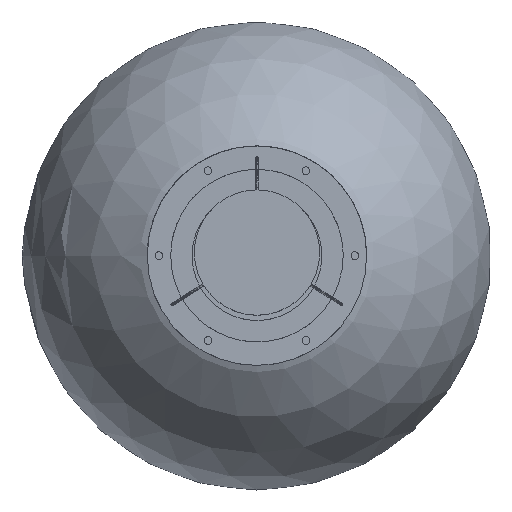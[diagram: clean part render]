
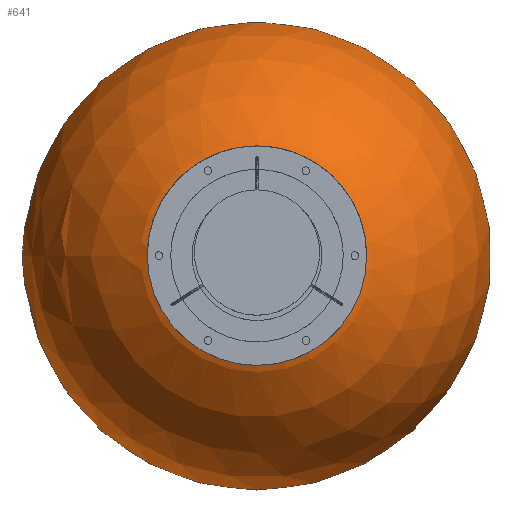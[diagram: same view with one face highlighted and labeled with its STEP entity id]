
A CAD part, top view. The second image highlights one B-rep face of the part: STEP entity #641.
In plain terms, the highlighted spherical face has radius 150 mm.
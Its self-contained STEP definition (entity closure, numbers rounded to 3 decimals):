
#170=FACE_OUTER_BOUND('',#223,.T.);
#223=EDGE_LOOP('',(#473,#474,#475,#476));
#289=CIRCLE('',#738,41.414);
#290=CIRCLE('',#739,150.);
#291=CIRCLE('',#740,41.414);
#333=VERTEX_POINT('',#1056);
#334=VERTEX_POINT('',#1057);
#335=VERTEX_POINT('',#1059);
#390=EDGE_CURVE('',#333,#334,#289,.T.);
#391=EDGE_CURVE('',#335,#333,#290,.T.);
#392=EDGE_CURVE('',#334,#333,#291,.T.);
#473=ORIENTED_EDGE('',*,*,#390,.F.);
#474=ORIENTED_EDGE('',*,*,#391,.F.);
#475=ORIENTED_EDGE('',*,*,#391,.T.);
#476=ORIENTED_EDGE('',*,*,#392,.F.);
#639=SPHERICAL_SURFACE('',#737,150.);
#641=ADVANCED_FACE('',(#170),#639,.T.);
#737=AXIS2_PLACEMENT_3D('',#1055,#839,#840);
#738=AXIS2_PLACEMENT_3D('',#1058,#841,#842);
#739=AXIS2_PLACEMENT_3D('',#1060,#843,#844);
#740=AXIS2_PLACEMENT_3D('',#1061,#845,#846);
#839=DIRECTION('center_axis',(0.,0.,
1.));
#840=DIRECTION('ref_axis',(1.,0.,0.));
#841=DIRECTION('center_axis',(0.,0.,-1.));
#842=DIRECTION('ref_axis',(1.,0.,0.));
#843=DIRECTION('center_axis',(0.,-1.,0.));
#844=DIRECTION('ref_axis',(-1.,0.,0.));
#845=DIRECTION('center_axis',(0.,0.,-1.));
#846=DIRECTION('ref_axis',(1.,0.,0.));
#1055=CARTESIAN_POINT('Origin',(0.,0.,144.17));
#1056=CARTESIAN_POINT('',(-41.414,0.,0.));
#1057=CARTESIAN_POINT('',(41.414,0.,0.));
#1058=CARTESIAN_POINT('Origin',(0.,0.,0.));
#1059=CARTESIAN_POINT('',(0.,0.,294.17));
#1060=CARTESIAN_POINT('Origin',(0.,0.,144.17));
#1061=CARTESIAN_POINT('Origin',(0.,0.,0.));
